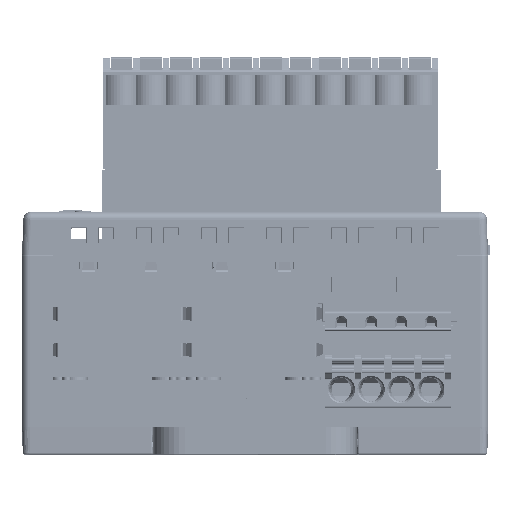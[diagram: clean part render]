
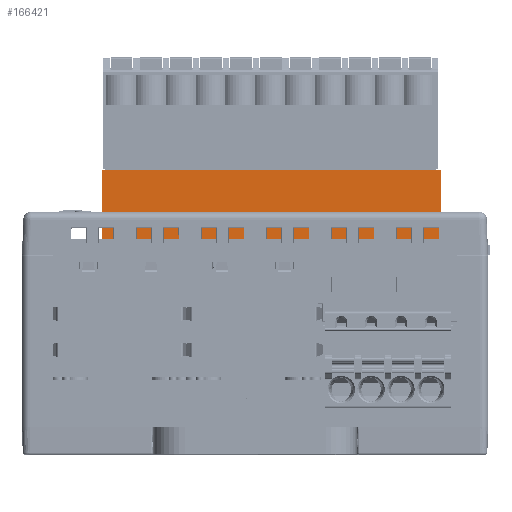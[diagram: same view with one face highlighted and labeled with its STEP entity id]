
A CAD part, front view. The second image highlights one B-rep face of the part: STEP entity #166421.
In plain terms, the highlighted planar face has unit normal (0, -1, 0).
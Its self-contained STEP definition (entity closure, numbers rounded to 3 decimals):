
#43314=DIRECTION('',(1.,0.,0.));
#43315=VECTOR('',#43314,43.3);
#43316=CARTESIAN_POINT('',(-19.55,-19.15,27.5));
#43317=LINE('',#43316,#43315);
#45750=DIRECTION('',(0.,0.,-1.));
#45751=VECTOR('',#45750,8.8);
#45752=CARTESIAN_POINT('',(23.75,-19.15,36.3));
#45753=LINE('',#45752,#45751);
#45758=DIRECTION('',(0.,0.,-1.));
#45759=VECTOR('',#45758,8.8);
#45760=CARTESIAN_POINT('',(-19.55,-19.15,36.3));
#45761=LINE('',#45760,#45759);
#45762=DIRECTION('',(-1.,0.,0.));
#45763=VECTOR('',#45762,43.3);
#45764=CARTESIAN_POINT('',(23.75,-19.15,36.3));
#45765=LINE('',#45764,#45763);
#60977=CARTESIAN_POINT('',(-19.55,-19.15,36.3));
#60979=VERTEX_POINT('',#60977);
#60983=CARTESIAN_POINT('',(23.75,-19.15,36.3));
#60984=VERTEX_POINT('',#60983);
#76237=CARTESIAN_POINT('',(-19.55,-19.15,27.5));
#76239=VERTEX_POINT('',#76237);
#76240=CARTESIAN_POINT('',(23.75,-19.15,27.5));
#76241=VERTEX_POINT('',#76240);
#166409=CARTESIAN_POINT('',(2.1,-19.15,31.7));
#166410=DIRECTION('',(0.,1.,0.));
#166411=DIRECTION('',(1.,0.,0.));
#166412=AXIS2_PLACEMENT_3D('',#166409,#166410,#166411);
#166413=PLANE('',#166412);
#166414=ORIENTED_EDGE('',*,*,#162566,.F.);
#166415=ORIENTED_EDGE('',*,*,#166355,.F.);
#166417=ORIENTED_EDGE('',*,*,#166416,.F.);
#166418=ORIENTED_EDGE('',*,*,#166394,.T.);
#166419=EDGE_LOOP('',(#166414,#166415,#166417,#166418));
#166420=FACE_OUTER_BOUND('',#166419,.F.);
#166421=ADVANCED_FACE('',(#166420),#166413,.F.);
#162566=EDGE_CURVE('',#76239,#76241,#43317,.T.);
#166355=EDGE_CURVE('',#60979,#76239,#45761,.T.);
#166394=EDGE_CURVE('',#60984,#76241,#45753,.T.);
#166416=EDGE_CURVE('',#60984,#60979,#45765,.T.);
